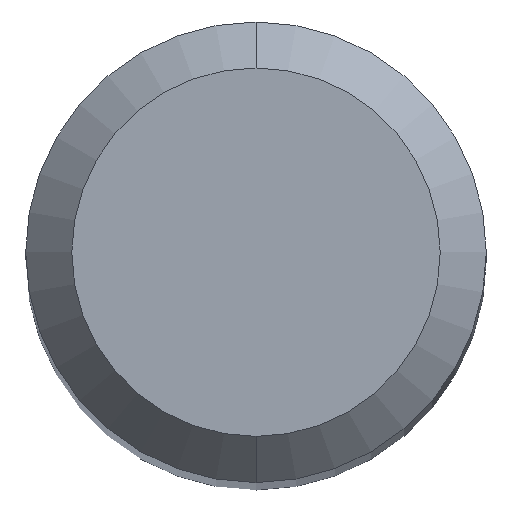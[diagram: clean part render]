
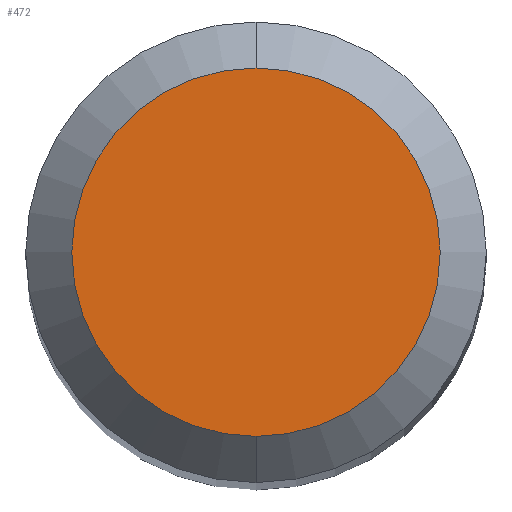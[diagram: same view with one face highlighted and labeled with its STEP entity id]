
A CAD part, top view. The second image highlights one B-rep face of the part: STEP entity #472.
In plain terms, the highlighted planar face has unit normal (0, 0, 1).
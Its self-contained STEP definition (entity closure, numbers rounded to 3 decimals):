
#220=VERTEX_POINT('',#569);
#230=EDGE_CURVE('',#318,#220,#579,.T.);
#318=VERTEX_POINT('',#681);
#320=EDGE_CURVE('',#220,#318,#683,.T.);
#472=ADVANCED_FACE('',(#849),#850,.T.);
#569=CARTESIAN_POINT('',(0.,-1.2,0.0));
#579=CIRCLE('',#969,1.2);
#681=CARTESIAN_POINT('',(0.0,1.2,0.0));
#683=CIRCLE('',#1168,1.2);
#849=FACE_OUTER_BOUND('',#1441,.T.);
#850=PLANE('',#1442);
#969=AXIS2_PLACEMENT_3D('',#1643,#1644,#1645);
#1168=AXIS2_PLACEMENT_3D('',#1780,#1781,#1782);
#1441=EDGE_LOOP('',(#1967,#1968));
#1442=AXIS2_PLACEMENT_3D('',#1969,#1970,#1971);
#1643=CARTESIAN_POINT('',(0.0,0.0,0.0));
#1644=DIRECTION('',(0.0,0.0,-1.0));
#1645=DIRECTION('',(0.0,1.0,0.0));
#1780=CARTESIAN_POINT('',(0.0,0.0,0.0));
#1781=DIRECTION('',(0.0,0.0,-1.0));
#1782=DIRECTION('',(0.0,1.0,0.0));
#1967=ORIENTED_EDGE('',*,*,#230,.F.);
#1968=ORIENTED_EDGE('',*,*,#320,.F.);
#1969=CARTESIAN_POINT('',(0.0,0.6,0.0));
#1970=DIRECTION('',(-0.0,0.0,1.0));
#1971=DIRECTION('',(0.0,-1.0,0.0));
